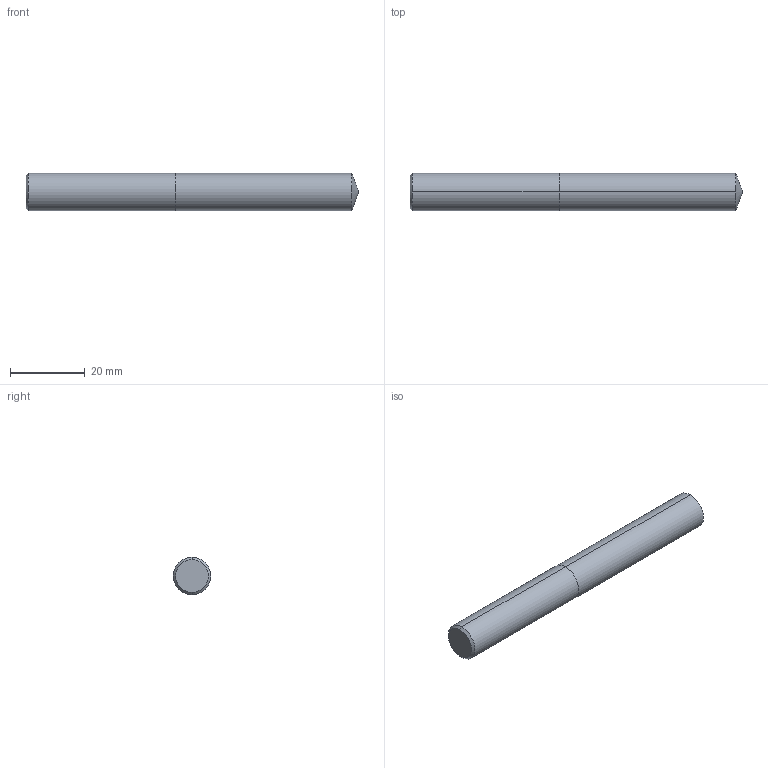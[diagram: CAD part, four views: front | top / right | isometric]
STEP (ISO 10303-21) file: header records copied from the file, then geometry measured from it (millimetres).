
FILE_DESCRIPTION (( 'STEP AP203' ), '1' );
FILE_NAME ('407016-DFX3-393A.STEP', '2024-10-02T22:16:08', ( '' ), ( '' ), 'SwSTEP 2.0', 'SolidWorks 2024', '' );
FILE_SCHEMA (( 'CONFIG_CONTROL_DESIGN' ));
Length unit declared in the file: inch
Products named in the file (1): 407016-DFX3-393A
Bounding box: 89 x 10 x 10 mm (x, y, z)
Volume: 6888.1 mm3; surface area: 2891.1 mm2
Topology: 1 solids, 1 shells, 12 faces, 22 edges, 12 vertices
Faces by surface type: cone 6, cylinder 4, plane 2
Entity records: 373 total; most frequent: DIRECTION 60, CARTESIAN_POINT 47, ORIENTED_EDGE 44, AXIS2_PLACEMENT_3D 25, EDGE_CURVE 22, ADVANCED_FACE 12, CIRCLE 12, EDGE_LOOP 12
